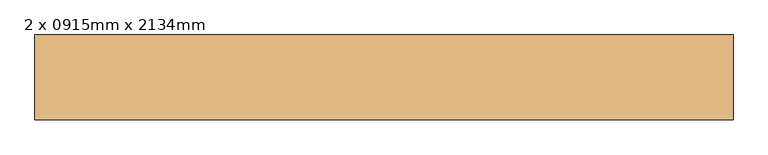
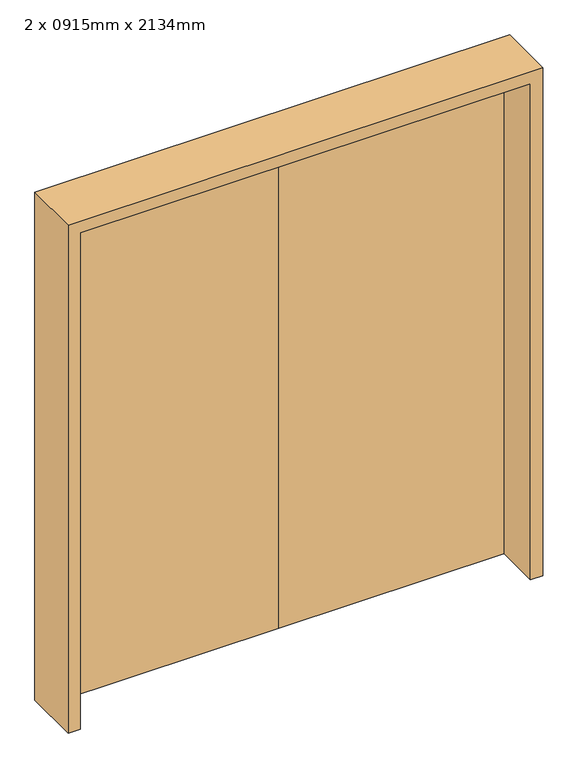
"""IFC4 building model written with IfcOpenShell, lengths in millimetres: door geometry, m-doors-hm-f2-a : 2 x 0915mm x 2134mm."""

from ifc_helpers import new_model, si_unit, frame, origin, origin_with_axes, place, context, project, spatial, polyline, outline, extrude, source, transform, mapped, element, save


def door_2_x_0915mm_x_2134mm_c74f849d(model_context):
    return source(origin(), model_context, "Body", "SweptSolid", [
        extrude(outline(polyline([(0.0, -105.5), (0.0, -60.5), (915.0, -60.5), (915.0, -105.5), (0.0, -105.5)])), origin_with_axes(), (0.0, 0.0, 1.0), 2134.0),
        extrude(outline(polyline([(0.0, -105.5), (-915.0, -105.5), (-915.0, -60.5), (0.0, -60.5), (0.0, -105.5)])), origin_with_axes(), (0.0, 0.0, 1.0), 2134.0),
        extrude(outline(polyline([(0.0, -965.0), (0.0, -915.0), (2134.0, -915.0), (2134.0, 915.0), (0.0, 915.0), (0.0, 965.0), (2184.0, 965.0), (2184.0, -965.0), (0.0, -965.0)])), frame((0.0, -292.0, 0.0), z_axis=(0.0, 1.0, 0.0), x_axis=(0.0, 0.0, 1.0)), (0.0, 0.0, 1.0), 234.0),
    ])


if __name__ == "__main__":
    model = new_model("IFC4")
    model_context = context("Model", 3, world=origin())
    ifc_project = project(units=[si_unit("LENGTHUNIT", "METRE", prefix="MILLI")], contexts=[model_context])
    site = spatial("IfcSite", under=ifc_project)
    building = spatial("IfcBuilding", under=site)
    placement = place(None, origin())
    door_2_x_0915mm_x_2134mm_shape = door_2_x_0915mm_x_2134mm_c74f849d(model_context)
    element("IfcDoor", 1, ObjectType="m-doors-hm-f2-a : 2 x 0915mm x 2134mm", at=placement, inside=building, context=model_context, shape_type="MappedRepresentation", body=[
        mapped(door_2_x_0915mm_x_2134mm_shape, transform((0.0, 0.0, 0.0), x_axis=(1.0, 0.0, 0.0), y_axis=(0.0, 1.0, 0.0), z_axis=(0.0, 0.0, 1.0))),
    ])
    save(model, "model.ifc")
